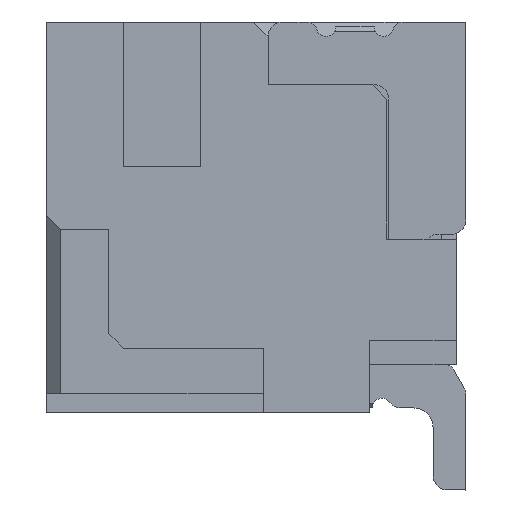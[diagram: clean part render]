
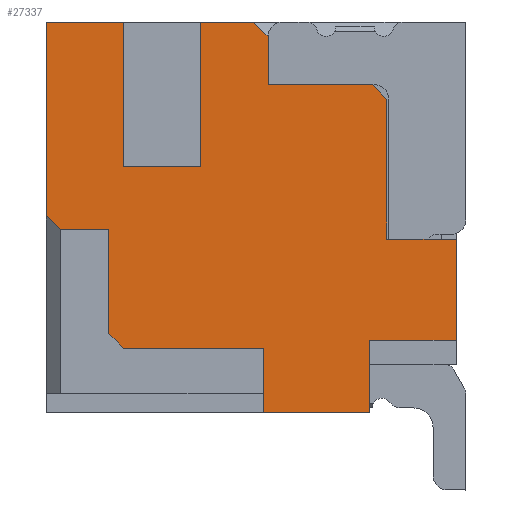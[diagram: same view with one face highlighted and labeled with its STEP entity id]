
A CAD part, left-side view. The second image highlights one B-rep face of the part: STEP entity #27337.
In plain terms, the highlighted planar face has unit normal (-1, 0, 0).
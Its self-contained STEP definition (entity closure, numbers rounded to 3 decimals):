
#433=DIRECTION('',(0.,0.,1.));
#434=VECTOR('',#433,1.05);
#435=CARTESIAN_POINT('',(0.,0.1,-3.3));
#436=LINE('',#435,#434);
#8541=DIRECTION('',(0.,0.,1.));
#8542=VECTOR('',#8541,0.75);
#8543=CARTESIAN_POINT('',(0.,1.,-4.05));
#8544=LINE('',#8543,#8542);
#8545=DIRECTION('',(0.,-1.,0.));
#8546=VECTOR('',#8545,0.9);
#8547=CARTESIAN_POINT('',(0.,1.,-3.3));
#8548=LINE('',#8547,#8546);
#8561=DIRECTION('',(0.,1.,0.));
#8562=VECTOR('',#8561,1.1);
#8563=CARTESIAN_POINT('',(0.,1.,-4.05));
#8564=LINE('',#8563,#8562);
#8565=DIRECTION('',(0.,0.707,0.707));
#8566=VECTOR('',#8565,0.212);
#8567=CARTESIAN_POINT('',(0.,3.55,-3.38));
#8568=LINE('',#8567,#8566);
#8569=DIRECTION('',(0.,0.707,0.707));
#8570=VECTOR('',#8569,0.212);
#8571=CARTESIAN_POINT('',(0.,4.2,-2.15));
#8572=LINE('',#8571,#8570);
#8573=DIRECTION('',(0.,0.,1.));
#8574=VECTOR('',#8573,2.);
#8575=CARTESIAN_POINT('',(0.,4.35,-2.));
#8576=LINE('',#8575,#8574);
#8577=DIRECTION('',(0.,-1.,0.));
#8578=VECTOR('',#8577,0.8);
#8579=CARTESIAN_POINT('',(0.,4.35,0.));
#8580=LINE('',#8579,#8578);
#8581=DIRECTION('',(0.,-1.,0.));
#8582=VECTOR('',#8581,0.55);
#8583=CARTESIAN_POINT('',(0.,2.75,0.));
#8584=LINE('',#8583,#8582);
#8585=DIRECTION('',(0.,-0.707,-0.707));
#8586=VECTOR('',#8585,0.212);
#8587=CARTESIAN_POINT('',(0.,2.2,0.));
#8588=LINE('',#8587,#8586);
#8589=DIRECTION('',(0.,-0.707,-0.707));
#8590=VECTOR('',#8589,0.212);
#8591=CARTESIAN_POINT('',(0.,0.97,-0.65));
#8592=LINE('',#8591,#8590);
#8593=DIRECTION('',(0.,0.,-1.));
#8594=VECTOR('',#8593,0.67);
#8595=CARTESIAN_POINT('',(0.,2.1,-3.38));
#8596=LINE('',#8595,#8594);
#8645=DIRECTION('',(0.,-1.,0.));
#8646=VECTOR('',#8645,1.45);
#8647=CARTESIAN_POINT('',(0.,3.55,-3.38));
#8648=LINE('',#8647,#8646);
#8661=DIRECTION('',(0.,0.,-1.));
#8662=VECTOR('',#8661,1.08);
#8663=CARTESIAN_POINT('',(0.,3.7,-2.15));
#8664=LINE('',#8663,#8662);
#8757=DIRECTION('',(0.,-1.,0.));
#8758=VECTOR('',#8757,0.5);
#8759=CARTESIAN_POINT('',(0.,4.2,-2.15));
#8760=LINE('',#8759,#8758);
#8917=DIRECTION('',(0.,0.,1.));
#8918=VECTOR('',#8917,1.5);
#8919=CARTESIAN_POINT('',(0.,3.55,-1.5));
#8920=LINE('',#8919,#8918);
#8941=DIRECTION('',(0.,0.,-1.));
#8942=VECTOR('',#8941,1.5);
#8943=CARTESIAN_POINT('',(0.,2.75,0.));
#8944=LINE('',#8943,#8942);
#8949=DIRECTION('',(0.,1.,0.));
#8950=VECTOR('',#8949,0.8);
#8951=CARTESIAN_POINT('',(0.,2.75,-1.5));
#8952=LINE('',#8951,#8950);
#9243=DIRECTION('',(0.,1.,0.));
#9244=VECTOR('',#9243,1.08);
#9245=CARTESIAN_POINT('',(0.,0.97,-0.65));
#9246=LINE('',#9245,#9244);
#9547=DIRECTION('',(0.,1.,0.));
#9548=VECTOR('',#9547,0.72);
#9549=CARTESIAN_POINT('',(0.,0.1,-2.25));
#9550=LINE('',#9549,#9548);
#9567=DIRECTION('',(0.,0.,1.));
#9568=VECTOR('',#9567,1.45);
#9569=CARTESIAN_POINT('',(0.,0.82,-2.25));
#9570=LINE('',#9569,#9568);
#9755=DIRECTION('',(0.,0.,1.));
#9756=VECTOR('',#9755,0.5);
#9757=CARTESIAN_POINT('',(0.,2.05,-0.65));
#9758=LINE('',#9757,#9756);
#12886=CARTESIAN_POINT('',(0.,2.2,0.));
#12887=VERTEX_POINT('',#12886);
#12888=CARTESIAN_POINT('',(0.,2.75,0.));
#12889=VERTEX_POINT('',#12888);
#12894=CARTESIAN_POINT('',(0.,3.55,0.));
#12895=VERTEX_POINT('',#12894);
#12896=CARTESIAN_POINT('',(0.,4.35,0.));
#12897=VERTEX_POINT('',#12896);
#13050=CARTESIAN_POINT('',(0.,4.35,-2.));
#13051=VERTEX_POINT('',#13050);
#13076=CARTESIAN_POINT('',(0.,2.1,-4.05));
#13077=VERTEX_POINT('',#13076);
#13078=CARTESIAN_POINT('',(0.,1.,-4.05));
#13079=VERTEX_POINT('',#13078);
#13280=CARTESIAN_POINT('',(0.,0.1,-3.3));
#13281=VERTEX_POINT('',#13280);
#13282=CARTESIAN_POINT('',(0.,0.1,-2.25));
#13283=VERTEX_POINT('',#13282);
#15319=CARTESIAN_POINT('',(0.,1.,-3.3));
#15321=VERTEX_POINT('',#15319);
#15325=CARTESIAN_POINT('',(0.,2.1,-3.38));
#15326=VERTEX_POINT('',#15325);
#15327=CARTESIAN_POINT('',(0.,3.55,-3.38));
#15328=VERTEX_POINT('',#15327);
#15329=CARTESIAN_POINT('',(0.,3.7,-3.23));
#15330=VERTEX_POINT('',#15329);
#15331=CARTESIAN_POINT('',(0.,3.7,-2.15));
#15332=VERTEX_POINT('',#15331);
#15333=CARTESIAN_POINT('',(0.,4.2,-2.15));
#15334=VERTEX_POINT('',#15333);
#15335=CARTESIAN_POINT('',(0.,3.55,-1.5));
#15336=VERTEX_POINT('',#15335);
#15337=CARTESIAN_POINT('',(0.,2.75,-1.5));
#15338=VERTEX_POINT('',#15337);
#15339=CARTESIAN_POINT('',(0.,2.05,-0.15));
#15340=VERTEX_POINT('',#15339);
#15341=CARTESIAN_POINT('',(0.,2.05,-0.65));
#15342=VERTEX_POINT('',#15341);
#15343=CARTESIAN_POINT('',(0.,0.97,-0.65));
#15344=VERTEX_POINT('',#15343);
#15345=CARTESIAN_POINT('',(0.,0.82,-0.8));
#15346=VERTEX_POINT('',#15345);
#15347=CARTESIAN_POINT('',(0.,0.82,-2.25));
#15348=VERTEX_POINT('',#15347);
#27293=CARTESIAN_POINT('',(0.,2.225,-2.025));
#27294=DIRECTION('',(1.,0.,0.));
#27295=DIRECTION('',(0.,-1.,0.));
#27296=AXIS2_PLACEMENT_3D('',#27293,#27294,#27295);
#27297=PLANE('',#27296);
#27298=ORIENTED_EDGE('',*,*,#27276,.F.);
#27299=ORIENTED_EDGE('',*,*,#27262,.F.);
#27300=ORIENTED_EDGE('',*,*,#17004,.T.);
#27302=ORIENTED_EDGE('',*,*,#27301,.F.);
#27304=ORIENTED_EDGE('',*,*,#27303,.F.);
#27306=ORIENTED_EDGE('',*,*,#27305,.T.);
#27308=ORIENTED_EDGE('',*,*,#27307,.F.);
#27310=ORIENTED_EDGE('',*,*,#27309,.F.);
#27312=ORIENTED_EDGE('',*,*,#27311,.T.);
#27313=ORIENTED_EDGE('',*,*,#16965,.T.);
#27314=ORIENTED_EDGE('',*,*,#16773,.T.);
#27316=ORIENTED_EDGE('',*,*,#27315,.F.);
#27318=ORIENTED_EDGE('',*,*,#27317,.F.);
#27320=ORIENTED_EDGE('',*,*,#27319,.F.);
#27321=ORIENTED_EDGE('',*,*,#16765,.T.);
#27323=ORIENTED_EDGE('',*,*,#27322,.T.);
#27325=ORIENTED_EDGE('',*,*,#27324,.F.);
#27327=ORIENTED_EDGE('',*,*,#27326,.F.);
#27329=ORIENTED_EDGE('',*,*,#27328,.T.);
#27331=ORIENTED_EDGE('',*,*,#27330,.F.);
#27333=ORIENTED_EDGE('',*,*,#27332,.F.);
#27334=ORIENTED_EDGE('',*,*,#17258,.F.);
#27335=EDGE_LOOP('',(#27298,#27299,#27300,#27302,#27304,#27306,#27308,#27310,
#27312,#27313,#27314,#27316,#27318,#27320,#27321,#27323,#27325,#27327,#27329,
#27331,#27333,#27334));
#27336=FACE_OUTER_BOUND('',#27335,.F.);
#16765=EDGE_CURVE('',#12889,#12887,#8584,.T.);
#16773=EDGE_CURVE('',#12897,#12895,#8580,.T.);
#16965=EDGE_CURVE('',#13051,#12897,#8576,.T.);
#17004=EDGE_CURVE('',#13079,#13077,#8564,.T.);
#17258=EDGE_CURVE('',#13281,#13283,#436,.T.);
#27262=EDGE_CURVE('',#13079,#15321,#8544,.T.);
#27276=EDGE_CURVE('',#15321,#13281,#8548,.T.);
#27301=EDGE_CURVE('',#15326,#13077,#8596,.T.);
#27303=EDGE_CURVE('',#15328,#15326,#8648,.T.);
#27305=EDGE_CURVE('',#15328,#15330,#8568,.T.);
#27307=EDGE_CURVE('',#15332,#15330,#8664,.T.);
#27309=EDGE_CURVE('',#15334,#15332,#8760,.T.);
#27311=EDGE_CURVE('',#15334,#13051,#8572,.T.);
#27315=EDGE_CURVE('',#15336,#12895,#8920,.T.);
#27317=EDGE_CURVE('',#15338,#15336,#8952,.T.);
#27319=EDGE_CURVE('',#12889,#15338,#8944,.T.);
#27322=EDGE_CURVE('',#12887,#15340,#8588,.T.);
#27324=EDGE_CURVE('',#15342,#15340,#9758,.T.);
#27326=EDGE_CURVE('',#15344,#15342,#9246,.T.);
#27328=EDGE_CURVE('',#15344,#15346,#8592,.T.);
#27330=EDGE_CURVE('',#15348,#15346,#9570,.T.);
#27332=EDGE_CURVE('',#13283,#15348,#9550,.T.);
#27337=ADVANCED_FACE('',(#27336),#27297,.F.);
